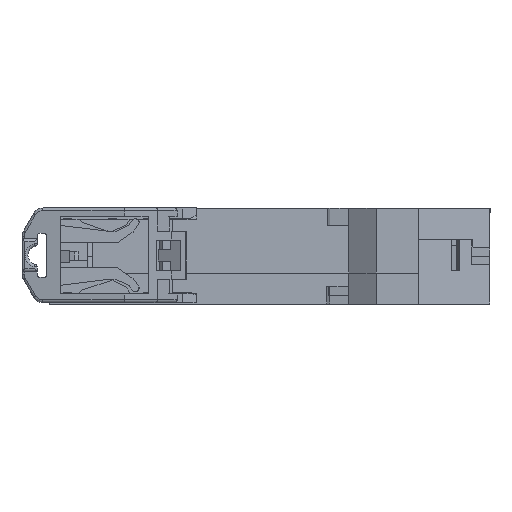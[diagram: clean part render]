
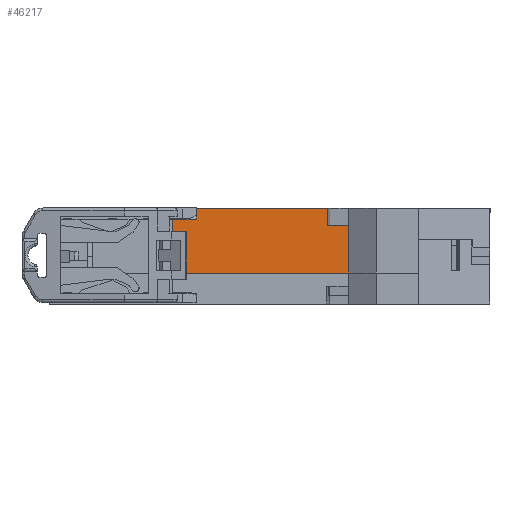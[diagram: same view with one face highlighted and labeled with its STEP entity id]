
A CAD part, front view. The second image highlights one B-rep face of the part: STEP entity #46217.
In plain terms, the highlighted planar face has unit normal (0, -1, 0).
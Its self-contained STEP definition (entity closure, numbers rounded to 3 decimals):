
#326 = CARTESIAN_POINT ( 'NONE',  ( 22.8, -34.756, 8.8 ) ) ;
#645 = DIRECTION ( 'NONE',  ( 1., 0., 0. ) ) ;
#1756 = CARTESIAN_POINT ( 'NONE',  ( 73., -34.756, 11.9 ) ) ;
#1795 = CARTESIAN_POINT ( 'NONE',  ( 54., -34.756, 8.8 ) ) ;
#5024 = LINE ( 'NONE', #72335, #44191 ) ;
#5047 = EDGE_CURVE ( 'NONE', #69835, #78653, #50630, .T. ) ;
#7487 = DIRECTION ( 'NONE',  ( 1., 0., 0. ) ) ;
#8157 = CARTESIAN_POINT ( 'NONE',  ( 32.281, -34.756, 0. ) ) ;
#8190 = VERTEX_POINT ( 'NONE', #62030 ) ;
#8213 = EDGE_CURVE ( 'NONE', #78653, #8190, #64968, .T. ) ;
#8430 = VECTOR ( 'NONE', #31151, 1000. ) ;
#12261 = VERTEX_POINT ( 'NONE', #40008 ) ;
#14389 = ORIENTED_EDGE ( 'NONE', *, *, #66455, .T. ) ;
#17920 = VERTEX_POINT ( 'NONE', #93195 ) ;
#18168 = VECTOR ( 'NONE', #72810, 1000. ) ;
#19605 = DIRECTION ( 'NONE',  ( 0., 1., 0. ) ) ;
#19940 = EDGE_LOOP ( 'NONE', ( #66494, #75228, #34895, #31188, #95273, #14389, #77912, #55917, #29404, #33298 ) ) ;
#23294 = CARTESIAN_POINT ( 'NONE',  ( 32.281, -34.756, 2. ) ) ;
#24404 = DIRECTION ( 'NONE',  ( 0., 0., 1. ) ) ;
#25392 = DIRECTION ( 'NONE',  ( -1., 0., 0. ) ) ;
#26660 = LINE ( 'NONE', #326, #68411 ) ;
#28005 = VECTOR ( 'NONE', #72211, 1000. ) ;
#28388 = LINE ( 'NONE', #62327, #65171 ) ;
#28910 = EDGE_CURVE ( 'NONE', #41059, #8190, #59992, .T. ) ;
#29404 = ORIENTED_EDGE ( 'NONE', *, *, #43640, .F. ) ;
#31151 = DIRECTION ( 'NONE',  ( 1., 0., 0. ) ) ;
#31188 = ORIENTED_EDGE ( 'NONE', *, *, #28910, .F. ) ;
#33298 = ORIENTED_EDGE ( 'NONE', *, *, #45353, .T. ) ;
#33641 = VECTOR ( 'NONE', #40741, 1000. ) ;
#34895 = ORIENTED_EDGE ( 'NONE', *, *, #8213, .T. ) ;
#36117 = LINE ( 'NONE', #1756, #33641 ) ;
#39118 = VECTOR ( 'NONE', #42012, 1000. ) ;
#39891 = CARTESIAN_POINT ( 'NONE',  ( 58.3, -34.756, 11.9 ) ) ;
#40008 = CARTESIAN_POINT ( 'NONE',  ( 22.8, -34.756, 11.9 ) ) ;
#40642 = AXIS2_PLACEMENT_3D ( 'NONE', #42881, #19605, #74434 ) ;
#40741 = DIRECTION ( 'NONE',  ( 1., 0., 0. ) ) ;
#41059 = VERTEX_POINT ( 'NONE', #39891 ) ;
#42012 = DIRECTION ( 'NONE',  ( 0., 0., -1. ) ) ;
#42881 = CARTESIAN_POINT ( 'NONE',  ( 32.281, -34.756, 8.8 ) ) ;
#43640 = EDGE_CURVE ( 'NONE', #51102, #84869, #5024, .T. ) ;
#44191 = VECTOR ( 'NONE', #25392, 1000. ) ;
#44424 = LINE ( 'NONE', #8157, #62856 ) ;
#45353 = EDGE_CURVE ( 'NONE', #51102, #83223, #46368, .T. ) ;
#45872 = VERTEX_POINT ( 'NONE', #85795 ) ;
#46217 = ADVANCED_FACE ( 'NONE', ( #79342 ), #66579, .F. ) ;
#46368 = LINE ( 'NONE', #48851, #28005 ) ;
#48851 = CARTESIAN_POINT ( 'NONE',  ( 29.912, -34.756, 3.2 ) ) ;
#50630 = LINE ( 'NONE', #1795, #53140 ) ;
#50963 = EDGE_CURVE ( 'NONE', #12261, #41059, #36117, .T. ) ;
#51102 = VERTEX_POINT ( 'NONE', #89716 ) ;
#53140 = VECTOR ( 'NONE', #24404, 1000. ) ;
#55099 = DIRECTION ( 'NONE',  ( 0., 0., -1. ) ) ;
#55917 = ORIENTED_EDGE ( 'NONE', *, *, #88186, .F. ) ;
#57803 = CARTESIAN_POINT ( 'NONE',  ( 58.3, -34.756, 3.7 ) ) ;
#58281 = CARTESIAN_POINT ( 'NONE',  ( 29.912, -34.756, 0. ) ) ;
#59992 = LINE ( 'NONE', #57803, #39118 ) ;
#62030 = CARTESIAN_POINT ( 'NONE',  ( 58.3, -34.756, 2. ) ) ;
#62327 = CARTESIAN_POINT ( 'NONE',  ( 32.281, -34.756, 0. ) ) ;
#62856 = VECTOR ( 'NONE', #645, 1000. ) ;
#64968 = LINE ( 'NONE', #23294, #8430 ) ;
#65171 = VECTOR ( 'NONE', #7487, 1000. ) ;
#66455 = EDGE_CURVE ( 'NONE', #12261, #45872, #26660, .T. ) ;
#66494 = ORIENTED_EDGE ( 'NONE', *, *, #86058, .T. ) ;
#66579 = PLANE ( 'NONE',  #40642 ) ;
#68411 = VECTOR ( 'NONE', #55099, 1000. ) ;
#69835 = VERTEX_POINT ( 'NONE', #98523 ) ;
#71134 = CARTESIAN_POINT ( 'NONE',  ( 25.85, -34.756, 3.2 ) ) ;
#72211 = DIRECTION ( 'NONE',  ( 0., 0., -1. ) ) ;
#72335 = CARTESIAN_POINT ( 'NONE',  ( 29.912, -34.756, 3.2 ) ) ;
#72810 = DIRECTION ( 'NONE',  ( 0., 0., -1. ) ) ;
#74434 = DIRECTION ( 'NONE',  ( -1., 0., 0. ) ) ;
#75228 = ORIENTED_EDGE ( 'NONE', *, *, #5047, .T. ) ;
#76628 = EDGE_CURVE ( 'NONE', #45872, #17920, #44424, .T. ) ;
#77912 = ORIENTED_EDGE ( 'NONE', *, *, #76628, .T. ) ;
#78653 = VERTEX_POINT ( 'NONE', #83143 ) ;
#79342 = FACE_OUTER_BOUND ( 'NONE', #19940, .T. ) ;
#83143 = CARTESIAN_POINT ( 'NONE',  ( 54., -34.756, 2. ) ) ;
#83223 = VERTEX_POINT ( 'NONE', #58281 ) ;
#84869 = VERTEX_POINT ( 'NONE', #71134 ) ;
#85795 = CARTESIAN_POINT ( 'NONE',  ( 22.8, -34.756, 0. ) ) ;
#86058 = EDGE_CURVE ( 'NONE', #83223, #69835, #28388, .T. ) ;
#88186 = EDGE_CURVE ( 'NONE', #84869, #17920, #99005, .T. ) ;
#88524 = CARTESIAN_POINT ( 'NONE',  ( 25.85, -34.756, 3.2 ) ) ;
#89716 = CARTESIAN_POINT ( 'NONE',  ( 29.912, -34.756, 3.2 ) ) ;
#93195 = CARTESIAN_POINT ( 'NONE',  ( 25.85, -34.756, 0. ) ) ;
#95273 = ORIENTED_EDGE ( 'NONE', *, *, #50963, .F. ) ;
#98523 = CARTESIAN_POINT ( 'NONE',  ( 54., -34.756, 0. ) ) ;
#99005 = LINE ( 'NONE', #88524, #18168 ) ;
